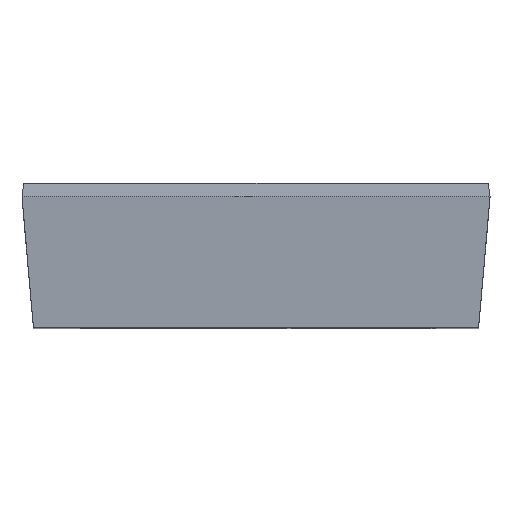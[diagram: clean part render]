
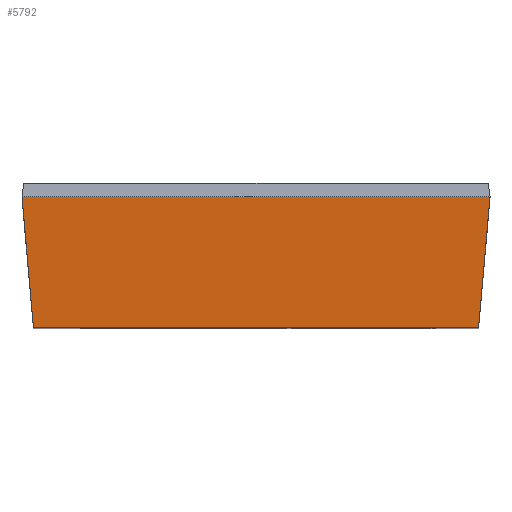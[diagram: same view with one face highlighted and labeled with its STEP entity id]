
A CAD part, top view. The second image highlights one B-rep face of the part: STEP entity #5792.
In plain terms, the highlighted planar face has unit normal (0, -0.087, 0.996).
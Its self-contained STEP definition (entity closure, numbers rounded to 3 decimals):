
#166=LINE('',#7564,#622);
#258=LINE('',#8490,#714);
#259=LINE('',#8492,#715);
#260=LINE('',#8494,#716);
#622=VECTOR('',#6409,1000.);
#714=VECTOR('',#6581,1000.);
#715=VECTOR('',#6584,1000.);
#716=VECTOR('',#6585,1000.);
#1030=PLANE('',#6046);
#1625=ORIENTED_EDGE('',*,*,#2616,.F.);
#1626=ORIENTED_EDGE('',*,*,#2617,.T.);
#1627=ORIENTED_EDGE('',*,*,#2618,.T.);
#1628=ORIENTED_EDGE('',*,*,#2486,.F.);
#2486=EDGE_CURVE('',#3035,#3036,#166,.T.);
#2616=EDGE_CURVE('',#3128,#3035,#258,.T.);
#2617=EDGE_CURVE('',#3128,#3129,#259,.T.);
#2618=EDGE_CURVE('',#3129,#3036,#260,.T.);
#3035=VERTEX_POINT('',#7563);
#3036=VERTEX_POINT('',#7565);
#3128=VERTEX_POINT('',#8489);
#3129=VERTEX_POINT('',#8493);
#3511=EDGE_LOOP('',(#1625,#1626,#1627,#1628));
#3817=FACE_BOUND('',#3511,.T.);
#5792=ADVANCED_FACE('',(#3817),#1030,.F.);
#6046=AXIS2_PLACEMENT_3D('',#8491,#6582,#6583);
#6409=DIRECTION('',(-1.,0.,0.));
#6581=DIRECTION('',(-0.087,-0.992,-0.087));
#6582=DIRECTION('',(0.,0.087,-0.996));
#6583=DIRECTION('',(0.,0.996,0.087));
#6584=DIRECTION('',(-1.,0.,0.));
#6585=DIRECTION('',(0.087,-0.992,-0.087));
#7563=CARTESIAN_POINT('',(4.965,-2.221,10.365));
#7564=CARTESIAN_POINT('',(5.22,-2.221,10.365));
#7565=CARTESIAN_POINT('',(-4.965,-2.221,10.365));
#8489=CARTESIAN_POINT('',(5.22,0.699,10.62));
#8490=CARTESIAN_POINT('',(5.22,0.699,10.62));
#8491=CARTESIAN_POINT('',(5.22,0.699,10.62));
#8492=CARTESIAN_POINT('',(5.22,0.699,10.62));
#8493=CARTESIAN_POINT('',(-5.22,0.699,10.62));
#8494=CARTESIAN_POINT('',(-5.141,-0.201,10.541));
